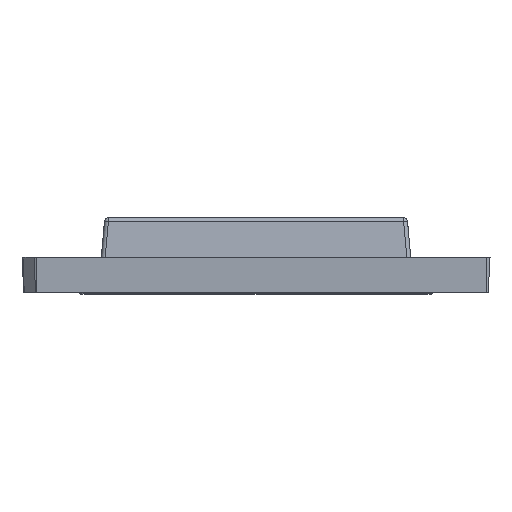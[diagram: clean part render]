
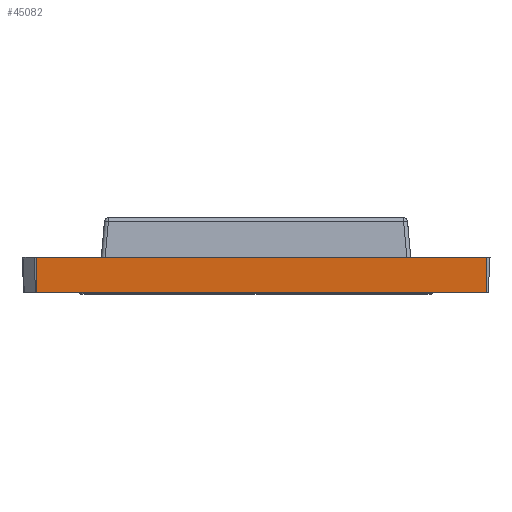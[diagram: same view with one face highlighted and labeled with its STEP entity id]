
A CAD part, front view. The second image highlights one B-rep face of the part: STEP entity #45082.
In plain terms, the highlighted planar face has unit normal (0, -0.999, -0.052).
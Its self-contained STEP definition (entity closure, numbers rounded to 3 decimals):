
#25274=CARTESIAN_POINT('Vertex',(22.5,-22.72,-2.325)) ;
#25277=CARTESIAN_POINT('Line Origine',(-12.7,-22.72,-2.325)) ;
#25281=CARTESIAN_POINT('Vertex',(-46.193,-22.72,-2.325)) ;
#45044=CARTESIAN_POINT('Vertex',(22.5,-23.,3.025)) ;
#45047=CARTESIAN_POINT('Line Origine',(22.5,-22.86,0.35)) ;
#45059=CARTESIAN_POINT('Axis2P3D Location',(-11.846,-23.,3.025)) ;
#45064=CARTESIAN_POINT('Line Origine',(-11.846,-23.,3.025)) ;
#45068=CARTESIAN_POINT('Vertex',(-46.193,-23.,3.025)) ;
#45071=CARTESIAN_POINT('Line Origine',(-46.193,-22.86,0.35)) ;
#25278=DIRECTION('Vector Direction',(1.,0.,0.)) ;
#45048=DIRECTION('Vector Direction',(0.,-0.052,0.999)) ;
#45060=DIRECTION('Axis2P3D Direction',(0.,0.999,0.052)) ;
#45061=DIRECTION('Axis2P3D XDirection',(-1.,0.,0.)) ;
#45065=DIRECTION('Vector Direction',(-1.,0.,0.)) ;
#45072=DIRECTION('Vector Direction',(0.,-0.052,0.999)) ;
#45062=AXIS2_PLACEMENT_3D('Plane Axis2P3D',#45059,#45060,#45061) ;
#45077=ORIENTED_EDGE('',*,*,#45051,.F.) ;
#45078=ORIENTED_EDGE('',*,*,#45070,.F.) ;
#45079=ORIENTED_EDGE('',*,*,#45075,.T.) ;
#45080=ORIENTED_EDGE('',*,*,#25283,.F.) ;
#25279=VECTOR('Line Direction',#25278,1.) ;
#45049=VECTOR('Line Direction',#45048,1.) ;
#45066=VECTOR('Line Direction',#45065,1.) ;
#45073=VECTOR('Line Direction',#45072,1.) ;
#45082=ADVANCED_FACE('2x6-M',(#45081),#45063,.F.) ;
#25283=EDGE_CURVE('',#25275,#25282,#25280,.F.) ;
#45051=EDGE_CURVE('',#45045,#25275,#45050,.F.) ;
#45070=EDGE_CURVE('',#45069,#45045,#45067,.F.) ;
#45075=EDGE_CURVE('',#45069,#25282,#45074,.F.) ;
#45076=EDGE_LOOP('',(#45077,#45078,#45079,#45080)) ;
#45081=FACE_OUTER_BOUND('',#45076,.T.) ;
#25280=LINE('Line',#25277,#25279) ;
#45050=LINE('Line',#45047,#45049) ;
#45067=LINE('Line',#45064,#45066) ;
#45074=LINE('Line',#45071,#45073) ;
#45063=PLANE('',#45062) ;
#25275=VERTEX_POINT('',#25274) ;
#25282=VERTEX_POINT('',#25281) ;
#45045=VERTEX_POINT('',#45044) ;
#45069=VERTEX_POINT('',#45068) ;
